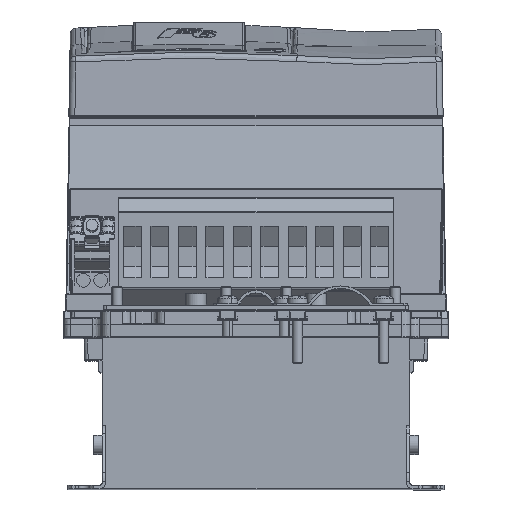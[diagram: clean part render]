
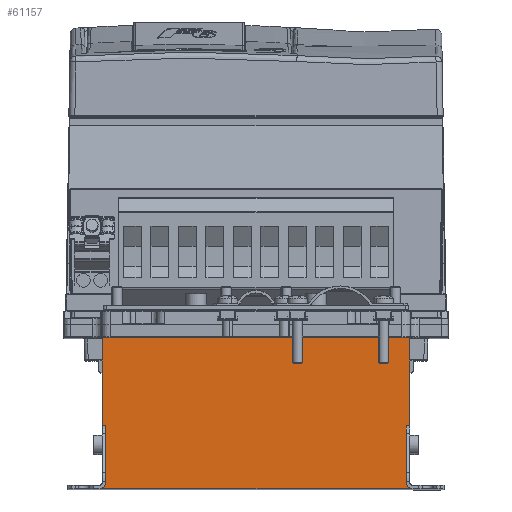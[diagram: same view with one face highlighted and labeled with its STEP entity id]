
A CAD part, top view. The second image highlights one B-rep face of the part: STEP entity #61157.
In plain terms, the highlighted planar face has unit normal (0, 0, 1).
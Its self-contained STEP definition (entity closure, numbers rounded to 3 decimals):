
#1176 = CIRCLE ( 'NONE', #68268, 4. ) ;
#1664 = VECTOR ( 'NONE', #21675, 1000. ) ;
#2255 = CARTESIAN_POINT ( 'NONE',  ( -87.5, -38., 159. ) ) ;
#2554 = EDGE_CURVE ( 'NONE', #27309, #123001, #52494, .T. ) ;
#2864 = ORIENTED_EDGE ( 'NONE', *, *, #75801, .T. ) ;
#3353 = ORIENTED_EDGE ( 'NONE', *, *, #68504, .T. ) ;
#4130 = DIRECTION ( 'NONE',  ( 0., 1., 0. ) ) ;
#9187 = AXIS2_PLACEMENT_3D ( 'NONE', #29900, #68760, #69373 ) ;
#9741 = CARTESIAN_POINT ( 'NONE',  ( -89.5, -75., 159. ) ) ;
#13317 = PLANE ( 'NONE',  #9187 ) ;
#18499 = EDGE_CURVE ( 'NONE', #73607, #55828, #84561, .T. ) ;
#18565 = VECTOR ( 'NONE', #66058, 1000. ) ;
#21675 = DIRECTION ( 'NONE',  ( -1., 0., 0. ) ) ;
#22241 = VECTOR ( 'NONE', #57917, 1000. ) ;
#22795 = DIRECTION ( 'NONE',  ( 0., -1., 0. ) ) ;
#24181 = EDGE_CURVE ( 'NONE', #24926, #35122, #120759, .T. ) ;
#24926 = VERTEX_POINT ( 'NONE', #79602 ) ;
#27084 = CARTESIAN_POINT ( 'NONE',  ( -89.5, -75., 159. ) ) ;
#27309 = VERTEX_POINT ( 'NONE', #87258 ) ;
#27473 = ORIENTED_EDGE ( 'NONE', *, *, #18499, .F. ) ;
#28328 = EDGE_CURVE ( 'NONE', #48002, #122770, #93901, .T. ) ;
#28690 = CARTESIAN_POINT ( 'NONE',  ( 91.5, -74.464, 159. ) ) ;
#29900 = CARTESIAN_POINT ( 'NONE',  ( 87., 10., 159. ) ) ;
#30041 = EDGE_CURVE ( 'NONE', #27309, #48002, #50103, .T. ) ;
#33749 = EDGE_CURVE ( 'NONE', #55828, #120479, #56304, .T. ) ;
#35122 = VERTEX_POINT ( 'NONE', #2255 ) ;
#37221 = DIRECTION ( 'NONE',  ( 0., -1., 0. ) ) ;
#41348 = CARTESIAN_POINT ( 'NONE',  ( 91.5, 13., 159. ) ) ;
#42655 = CARTESIAN_POINT ( 'NONE',  ( -85.5, -38., 159. ) ) ;
#48002 = VERTEX_POINT ( 'NONE', #27084 ) ;
#50103 = CIRCLE ( 'NONE', #66384, 4. ) ;
#51803 = EDGE_LOOP ( 'NONE', ( #2864, #74047, #27473, #3353, #110113, #92762, #110951, #125465, #111519, #87961 ) ) ;
#52494 = LINE ( 'NONE', #55005, #66825 ) ;
#55005 = CARTESIAN_POINT ( 'NONE',  ( -85.5, -73., 159. ) ) ;
#55245 = CARTESIAN_POINT ( 'NONE',  ( 89.5, -38., 159. ) ) ;
#55828 = VERTEX_POINT ( 'NONE', #118856 ) ;
#56304 = LINE ( 'NONE', #95234, #78511 ) ;
#57330 = DIRECTION ( 'NONE',  ( 0., 0., -1. ) ) ;
#57917 = DIRECTION ( 'NONE',  ( 0., 1., 0. ) ) ;
#60282 = DIRECTION ( 'NONE',  ( 1., 0., 0. ) ) ;
#61157 = ADVANCED_FACE ( 'NONE', ( #107672 ), #13317, .T. ) ;
#62697 = DIRECTION ( 'NONE',  ( 0., -1., 0. ) ) ;
#65479 = CARTESIAN_POINT ( 'NONE',  ( 93.5, -75., 159. ) ) ;
#65770 = DIRECTION ( 'NONE',  ( 1., 0., 0. ) ) ;
#66058 = DIRECTION ( 'NONE',  ( -1., 0., 0. ) ) ;
#66384 = AXIS2_PLACEMENT_3D ( 'NONE', #86668, #57330, #96883 ) ;
#66825 = VECTOR ( 'NONE', #4130, 1000. ) ;
#68268 = AXIS2_PLACEMENT_3D ( 'NONE', #72444, #120935, #22795 ) ;
#68504 = EDGE_CURVE ( 'NONE', #73607, #69628, #87901, .T. ) ;
#68760 = DIRECTION ( 'NONE',  ( 0., 0., 1. ) ) ;
#69272 = LINE ( 'NONE', #89665, #120219 ) ;
#69373 = DIRECTION ( 'NONE',  ( -1., 0., 0. ) ) ;
#69454 = LINE ( 'NONE', #42655, #1664 ) ;
#69628 = VERTEX_POINT ( 'NONE', #41348 ) ;
#72444 = CARTESIAN_POINT ( 'NONE',  ( 93.5, -71., 159. ) ) ;
#73607 = VERTEX_POINT ( 'NONE', #91801 ) ;
#74047 = ORIENTED_EDGE ( 'NONE', *, *, #33749, .F. ) ;
#75801 = EDGE_CURVE ( 'NONE', #122770, #120479, #1176, .T. ) ;
#78511 = VECTOR ( 'NONE', #37221, 1000. ) ;
#79513 = VECTOR ( 'NONE', #62697, 1000. ) ;
#79602 = CARTESIAN_POINT ( 'NONE',  ( -87.5, 13., 159. ) ) ;
#80541 = CARTESIAN_POINT ( 'NONE',  ( -87.5, 13., 159. ) ) ;
#84561 = LINE ( 'NONE', #55245, #18565 ) ;
#86356 = CARTESIAN_POINT ( 'NONE',  ( -85.5, -38., 159. ) ) ;
#86492 = CARTESIAN_POINT ( 'NONE',  ( 89.5, -71., 159. ) ) ;
#86668 = CARTESIAN_POINT ( 'NONE',  ( -89.5, -71., 159. ) ) ;
#86746 = EDGE_CURVE ( 'NONE', #24926, #69628, #69272, .T. ) ;
#87258 = CARTESIAN_POINT ( 'NONE',  ( -85.5, -71., 159. ) ) ;
#87901 = LINE ( 'NONE', #28690, #22241 ) ;
#87920 = EDGE_CURVE ( 'NONE', #123001, #35122, #69454, .T. ) ;
#87961 = ORIENTED_EDGE ( 'NONE', *, *, #28328, .T. ) ;
#89665 = CARTESIAN_POINT ( 'NONE',  ( 2., 13., 159. ) ) ;
#90309 = VECTOR ( 'NONE', #65770, 1000. ) ;
#91801 = CARTESIAN_POINT ( 'NONE',  ( 91.5, -38., 159. ) ) ;
#92762 = ORIENTED_EDGE ( 'NONE', *, *, #24181, .T. ) ;
#93901 = LINE ( 'NONE', #9741, #90309 ) ;
#95234 = CARTESIAN_POINT ( 'NONE',  ( 89.5, -73., 159. ) ) ;
#96883 = DIRECTION ( 'NONE',  ( 0., -1., 0. ) ) ;
#107672 = FACE_OUTER_BOUND ( 'NONE', #51803, .T. ) ;
#110113 = ORIENTED_EDGE ( 'NONE', *, *, #86746, .F. ) ;
#110951 = ORIENTED_EDGE ( 'NONE', *, *, #87920, .F. ) ;
#111519 = ORIENTED_EDGE ( 'NONE', *, *, #30041, .T. ) ;
#118856 = CARTESIAN_POINT ( 'NONE',  ( 89.5, -38., 159. ) ) ;
#120219 = VECTOR ( 'NONE', #60282, 1000. ) ;
#120479 = VERTEX_POINT ( 'NONE', #86492 ) ;
#120759 = LINE ( 'NONE', #80541, #79513 ) ;
#120935 = DIRECTION ( 'NONE',  ( 0., 0., -1. ) ) ;
#122770 = VERTEX_POINT ( 'NONE', #65479 ) ;
#123001 = VERTEX_POINT ( 'NONE', #86356 ) ;
#125465 = ORIENTED_EDGE ( 'NONE', *, *, #2554, .F. ) ;
